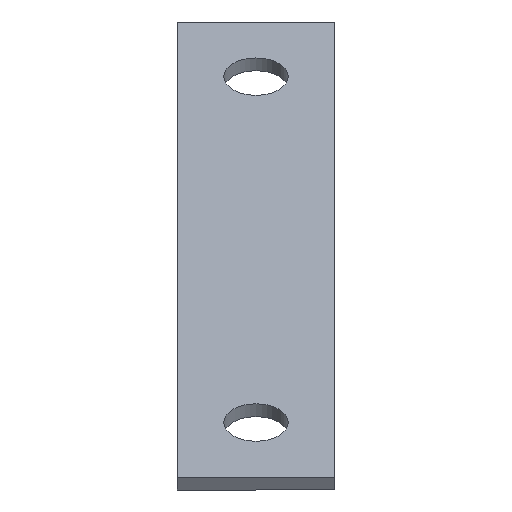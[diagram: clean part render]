
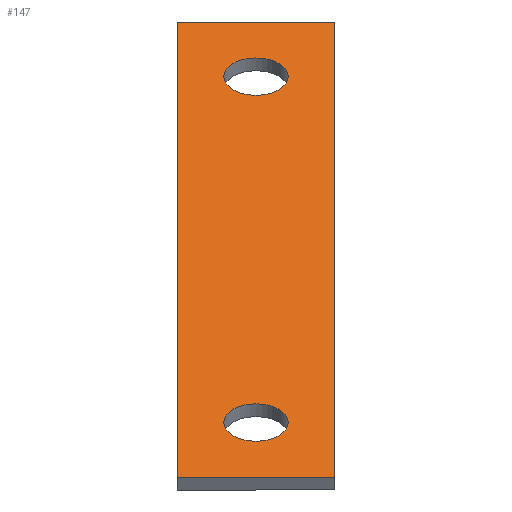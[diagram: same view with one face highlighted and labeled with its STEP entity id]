
A CAD part, isometric view. The second image highlights one B-rep face of the part: STEP entity #147.
In plain terms, the highlighted planar face has unit normal (0, 0, 1).
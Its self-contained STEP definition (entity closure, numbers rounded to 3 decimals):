
#15=FACE_BOUND('',#36,.T.);
#16=FACE_BOUND('',#37,.T.);
#19=PLANE('',#173);
#27=FACE_OUTER_BOUND('',#35,.T.);
#35=EDGE_LOOP('',(#115,#116,#117,#118));
#36=EDGE_LOOP('',(#119));
#37=EDGE_LOOP('',(#120));
#47=LINE('',#235,#61);
#48=LINE('',#237,#62);
#49=LINE('',#239,#63);
#50=LINE('',#240,#64);
#61=VECTOR('',#197,10.);
#62=VECTOR('',#198,10.);
#63=VECTOR('',#199,10.);
#64=VECTOR('',#200,10.);
#74=CIRCLE('',#169,2.05);
#76=CIRCLE('',#172,2.05);
#78=VERTEX_POINT('',#223);
#80=VERTEX_POINT('',#229);
#81=VERTEX_POINT('',#233);
#82=VERTEX_POINT('',#234);
#83=VERTEX_POINT('',#236);
#84=VERTEX_POINT('',#238);
#91=EDGE_CURVE('',#78,#78,#74,.T.);
#94=EDGE_CURVE('',#80,#80,#76,.T.);
#95=EDGE_CURVE('',#81,#82,#47,.T.);
#96=EDGE_CURVE('',#82,#83,#48,.T.);
#97=EDGE_CURVE('',#83,#84,#49,.T.);
#98=EDGE_CURVE('',#84,#81,#50,.T.);
#115=ORIENTED_EDGE('',*,*,#95,.T.);
#116=ORIENTED_EDGE('',*,*,#96,.T.);
#117=ORIENTED_EDGE('',*,*,#97,.T.);
#118=ORIENTED_EDGE('',*,*,#98,.T.);
#119=ORIENTED_EDGE('',*,*,#91,.T.);
#120=ORIENTED_EDGE('',*,*,#94,.T.);
#147=ADVANCED_FACE('',(#27,#15,#16),#19,.T.);
#169=AXIS2_PLACEMENT_3D('',#225,#186,#187);
#172=AXIS2_PLACEMENT_3D('',#231,#193,#194);
#173=AXIS2_PLACEMENT_3D('',#232,#195,#196);
#186=DIRECTION('center_axis',(0.,0.,-1.));
#187=DIRECTION('ref_axis',(0.707,0.707,0.));
#193=DIRECTION('center_axis',(0.,0.,-1.));
#194=DIRECTION('ref_axis',(0.707,0.707,0.));
#195=DIRECTION('center_axis',(0.,0.,1.));
#196=DIRECTION('ref_axis',(0.707,0.707,0.));
#197=DIRECTION('',(-0.707,0.707,0.));
#198=DIRECTION('',(-0.707,-0.707,0.));
#199=DIRECTION('',(0.707,-0.707,0.));
#200=DIRECTION('',(0.707,0.707,0.));
#223=CARTESIAN_POINT('',(101.985,76.985,201.));
#225=CARTESIAN_POINT('Origin',(103.435,78.435,201.));
#229=CARTESIAN_POINT('',(75.115,50.115,201.));
#231=CARTESIAN_POINT('Origin',(76.565,51.565,201.));
#232=CARTESIAN_POINT('Origin',(90.,65.,201.));
#233=CARTESIAN_POINT('',(111.213,79.142,201.));
#234=CARTESIAN_POINT('',(104.142,86.213,201.));
#235=CARTESIAN_POINT('',(107.678,82.678,201.));
#236=CARTESIAN_POINT('',(68.787,50.858,201.));
#237=CARTESIAN_POINT('',(86.464,68.536,201.));
#238=CARTESIAN_POINT('',(75.858,43.787,201.));
#239=CARTESIAN_POINT('',(72.322,47.322,201.));
#240=CARTESIAN_POINT('',(93.536,61.464,201.));
